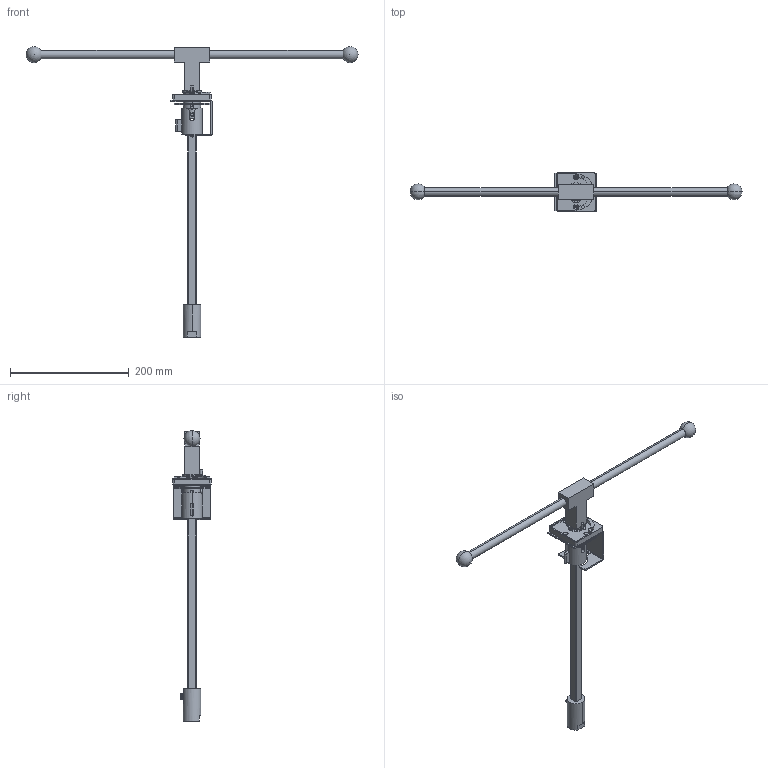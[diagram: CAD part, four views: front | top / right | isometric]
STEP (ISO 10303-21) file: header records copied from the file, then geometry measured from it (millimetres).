
FILE_DESCRIPTION (( 'STEP AP214' ), '1' );
FILE_NAME ('Extended rotary handle-GL-2000-3150.STEP', '2026-01-14T08:34:13', ( '' ), ( '' ), 'SwSTEP 2.0', 'SolidWorks 2024', '' );
FILE_SCHEMA (( 'AUTOMOTIVE_DESIGN' ));
Length unit declared in the file: millimetre
Products named in the file (16): Extended rotary handle-GL-2000-3150; HGL-8001600-373390001_1_1_1_1_1_2.stp; NONE-5803_1_1_1_1_1_1_1_2.stp; GL-1000-1600_ASM_1_ASM_1_ASM__1_ASM_2.stp; GL-1000-1600-202400001_ASM_1__1_ASM_2.stp; GL-1000GUIWAIZUJIAN_ASM_1_ASM_4_ASM_2.stp; 1000_1600GUIWAISHOUBIN_ASM_1_AS_ASM_2.stp; HGL-8001600-384580001_1_1_1_1_1_2.stp; Extended rotary handle-GL-2000-3150.stp; GL-100030001_ASM_1_ASM_1_ASM__2_ASM_2.stp; TIE_SHOU_BIN_1_1_2.stp; HGL-8001600-218770001_1_1_1_1_1_2.stp; HGL-8001600-379820001_1_1_1_1_1_2.stp; 1000_ASM_1_ASM_1_ASM_1_ASM_1_1__ASM_2.stp; GL-1000-1600-SHOUBING_ASM_1_1_A_ASM_2.stp; ASM0002_ASM_1_ASM_1_ASM_2.stp
Assembly tree (15 placements, depth 11):
  Extended rotary handle-GL-2000-3150
    Extended rotary handle-GL-2000-3150.stp
      1000_1600GUIWAISHOUBIN_ASM_1_AS_ASM_2.stp
        ASM0002_ASM_1_ASM_1_ASM_2.stp
          GL-1000-1600-SHOUBING_ASM_1_1_A_ASM_2.stp
            GL-1000-1600-202400001_ASM_1__1_ASM_2.stp
              GL-1000-1600_ASM_1_ASM_1_ASM__1_ASM_2.stp
                GL-1000GUIWAIZUJIAN_ASM_1_ASM_4_ASM_2.stp
                  GL-100030001_ASM_1_ASM_1_ASM__2_ASM_2.stp
        TIE_SHOU_BIN_1_1_2.stp
Bounding box: 560.09 x 65 x 490.44 mm (x, y, z)
Volume: 368441.5 mm3; surface area: 112870 mm2
Topology: 6 solids, 8 shells, 392 faces, 1062 edges, 689 vertices
Faces by surface type: plane 201, cylinder 153, cone 16, torus 16, sphere 4, bspline 2
Entity records: 18592 total; most frequent: CARTESIAN_POINT 8380, ORIENTED_EDGE 2100, DIRECTION 1993, EDGE_CURVE 1050, AXIS2_PLACEMENT_3D 713, VERTEX_POINT 683, VECTOR 567, LINE 567
